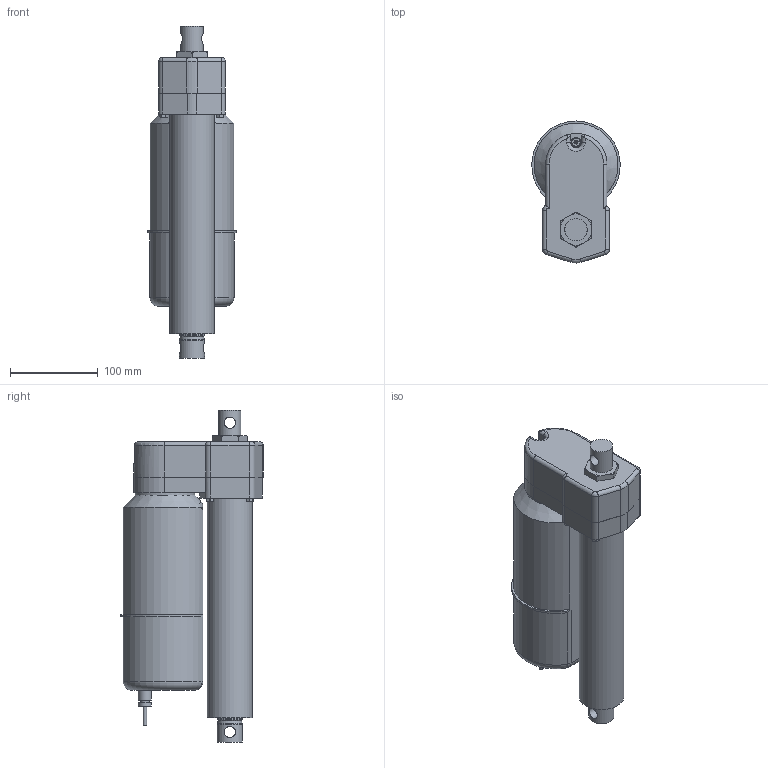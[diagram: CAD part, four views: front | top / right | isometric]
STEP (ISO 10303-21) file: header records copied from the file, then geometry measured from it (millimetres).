
FILE_DESCRIPTION (( 'STEP AP214' ), '1' );
FILE_NAME ('A42-05B5-06M0N-tollo.step', '2020-04-06T18:51:51', ( '' ), ( '' ), 'SwSTEP 2.0', 'SolidWorks 2010', '' );
FILE_SCHEMA (( 'AUTOMOTIVE_DESIGN' ));
Length unit declared in the file: millimetre
Products named in the file (7): Electrak-LA5-Motor-A42-05B5-06M0N-tollo_Electrak-LA5-Motor-A42-05B5-06M0N-tollo; Electrak-LA5-Rear-A42-05B5-06M0N-tollo_Electrak-LA5-Rear-A42-05B5-06M0N-tollo; Electrak-LA5-Tube-A42-05B5-06M0N-tollo_Electrak-LA5-Tube-A42-05B5-06M0N-tollo; Electrak-LA5-Rod-A42-05B5-06M0N-tollo_Electrak-LA5-Rod-A42-05B5-06M0N-tollo; Screw-MFX-H-M5-A42-05B5-06M0N-tollo_Screw-MFX-H-M5-A42-05B5-06M0N-tollo; Screw-M6S-M5-A42-05B5-06M0N-tollo_Screw-M6S-M5-A42-05B5-06M0N-tollo; A42-05B5-06M0N-tollo
Assembly tree (9 placements, depth 2):
  A42-05B5-06M0N-tollo
    Electrak-LA5-Rear-A42-05B5-06M0N-tollo_Electrak-LA5-Rear-A42-05B5-06M0N-tollo
    Electrak-LA5-Motor-A42-05B5-06M0N-tollo_Electrak-LA5-Motor-A42-05B5-06M0N-tollo
    Electrak-LA5-Rod-A42-05B5-06M0N-tollo_Electrak-LA5-Rod-A42-05B5-06M0N-tollo
    Electrak-LA5-Tube-A42-05B5-06M0N-tollo_Electrak-LA5-Tube-A42-05B5-06M0N-tollo
    Screw-M6S-M5-A42-05B5-06M0N-tollo_Screw-M6S-M5-A42-05B5-06M0N-tollo  x4
    Screw-MFX-H-M5-A42-05B5-06M0N-tollo_Screw-MFX-H-M5-A42-05B5-06M0N-tollo
Bounding box: 100.99 x 162.5 x 379 mm (x, y, z)
Volume: 2670037.3 mm3; surface area: 233141.8 mm2
Topology: 9 solids, 9 shells, 238 faces, 549 edges, 347 vertices
Faces by surface type: plane 95, cylinder 92, cone 31, torus 15, bspline 3, sphere 2
Full cylindrical faces by diameter (mm): 4 x1, 4.126 x5, 4.8 x2, 5 x13, 7.878 x4, 9.3 x1, 10 x1, 12.8 x2, 15 x2, 25.4 x1, 28.6 x4, 51.3 x1, 68 x1
Entity records: 5776 total; most frequent: CARTESIAN_POINT 1721, DIRECTION 806, ORIENTED_EDGE 666, AXIS2_PLACEMENT_3D 339, EDGE_CURVE 333, EDGE_LOOP 245, VERTEX_POINT 236, FACE_OUTER_BOUND 198
